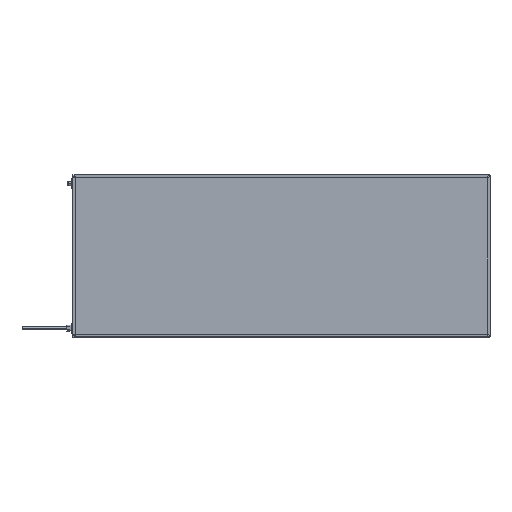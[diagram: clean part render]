
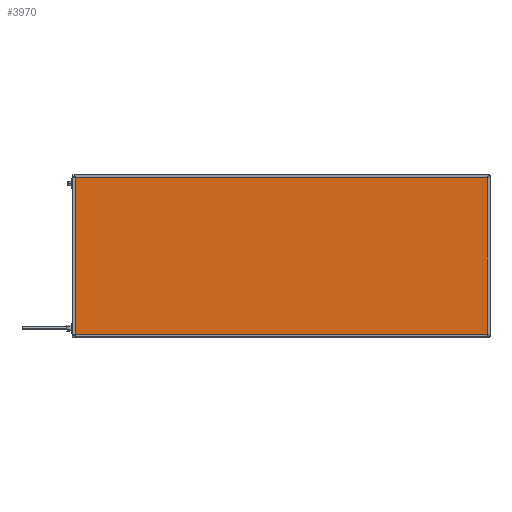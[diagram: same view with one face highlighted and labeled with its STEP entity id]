
A CAD part, top view. The second image highlights one B-rep face of the part: STEP entity #3970.
In plain terms, the highlighted planar face has unit normal (0, 0, 1).
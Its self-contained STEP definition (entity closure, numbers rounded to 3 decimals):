
#79 = VERTEX_POINT ( 'NONE', #2656 ) ;
#107 = ORIENTED_EDGE ( 'NONE', *, *, #6295, .T. ) ;
#145 = AXIS2_PLACEMENT_3D ( 'NONE', #5136, #14817, #2304 ) ;
#488 = VECTOR ( 'NONE', #6488, 1000. ) ;
#493 = CARTESIAN_POINT ( 'NONE',  ( 0., 496., 41.85 ) ) ;
#1685 = DIRECTION ( 'NONE',  ( -1., 0., 0. ) ) ;
#2156 = VECTOR ( 'NONE', #1685, 1000. ) ;
#2304 = DIRECTION ( 'NONE',  ( -1., 0., 0. ) ) ;
#2656 = CARTESIAN_POINT ( 'NONE',  ( 1296., 4., 41.85 ) ) ;
#3108 = EDGE_CURVE ( 'NONE', #15591, #9442, #16006, .T. ) ;
#3466 = ORIENTED_EDGE ( 'NONE', *, *, #3108, .T. ) ;
#3970 = ADVANCED_FACE ( 'NONE', ( #17456 ), #7883, .F. ) ;
#4102 = EDGE_CURVE ( 'NONE', #79, #15591, #15188, .T. ) ;
#5136 = CARTESIAN_POINT ( 'NONE',  ( 0., 0., 41.85 ) ) ;
#5675 = DIRECTION ( 'NONE',  ( 0., -1., 0. ) ) ;
#5962 = EDGE_LOOP ( 'NONE', ( #13664, #3466, #6521, #107 ) ) ;
#6295 = EDGE_CURVE ( 'NONE', #6925, #79, #14881, .T. ) ;
#6419 = VECTOR ( 'NONE', #5675, 1000. ) ;
#6488 = DIRECTION ( 'NONE',  ( 1., 0., 0. ) ) ;
#6521 = ORIENTED_EDGE ( 'NONE', *, *, #13245, .T. ) ;
#6925 = VERTEX_POINT ( 'NONE', #16906 ) ;
#7883 = PLANE ( 'NONE',  #145 ) ;
#9442 = VERTEX_POINT ( 'NONE', #17270 ) ;
#10934 = CARTESIAN_POINT ( 'NONE',  ( 1296., 496., 41.85 ) ) ;
#12398 = VECTOR ( 'NONE', #16543, 1000. ) ;
#12634 = CARTESIAN_POINT ( 'NONE',  ( 1296., 0., 41.85 ) ) ;
#13245 = EDGE_CURVE ( 'NONE', #9442, #6925, #15178, .T. ) ;
#13664 = ORIENTED_EDGE ( 'NONE', *, *, #4102, .T. ) ;
#14817 = DIRECTION ( 'NONE',  ( 0., 0., -1. ) ) ;
#14881 = LINE ( 'NONE', #17786, #488 ) ;
#15178 = LINE ( 'NONE', #16440, #6419 ) ;
#15188 = LINE ( 'NONE', #12634, #12398 ) ;
#15591 = VERTEX_POINT ( 'NONE', #10934 ) ;
#16006 = LINE ( 'NONE', #493, #2156 ) ;
#16440 = CARTESIAN_POINT ( 'NONE',  ( 4., 0., 41.85 ) ) ;
#16543 = DIRECTION ( 'NONE',  ( 0., 1., 0. ) ) ;
#16906 = CARTESIAN_POINT ( 'NONE',  ( 4., 4., 41.85 ) ) ;
#17270 = CARTESIAN_POINT ( 'NONE',  ( 4., 496., 41.85 ) ) ;
#17456 = FACE_OUTER_BOUND ( 'NONE', #5962, .T. ) ;
#17786 = CARTESIAN_POINT ( 'NONE',  ( 0., 4., 41.85 ) ) ;
